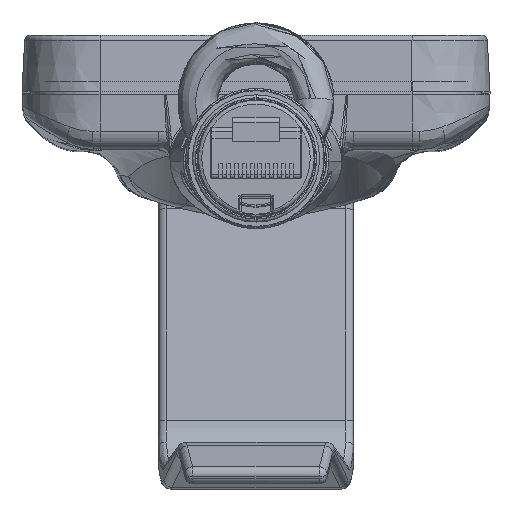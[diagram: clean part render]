
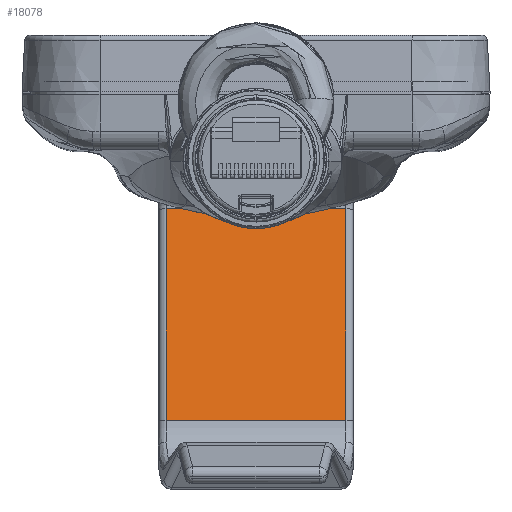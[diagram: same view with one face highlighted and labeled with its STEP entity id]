
A CAD part, top view. The second image highlights one B-rep face of the part: STEP entity #18078.
In plain terms, the highlighted planar face has unit normal (0, 0.174, 0.985).
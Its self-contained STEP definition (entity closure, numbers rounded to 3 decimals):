
#15982=DIRECTION('',(-1.,0.,0.));
#15983=VECTOR('',#15982,23.);
#15984=CARTESIAN_POINT('',(11.5,-14.816,-54.824));
#15985=LINE('',#15984,#15983);
#15990=DIRECTION('',(-1.,0.,0.));
#15991=VECTOR('',#15990,23.);
#15992=CARTESIAN_POINT('',(11.5,-41.919,-50.045));
#15993=LINE('',#15992,#15991);
#15994=DIRECTION('',(0.,0.985,-0.174));
#15995=VECTOR('',#15994,27.521);
#15996=CARTESIAN_POINT('',(11.5,-41.919,-50.045));
#15997=LINE('',#15996,#15995);
#16143=DIRECTION('',(0.,0.985,-0.174));
#16144=VECTOR('',#16143,27.521);
#16145=CARTESIAN_POINT('',(-11.5,-41.919,-50.045));
#16146=LINE('',#16145,#16144);
#16916=CARTESIAN_POINT('',(11.5,-14.816,-54.824));
#16918=VERTEX_POINT('',#16916);
#16924=CARTESIAN_POINT('',(11.5,-41.919,-50.045));
#16925=VERTEX_POINT('',#16924);
#17002=CARTESIAN_POINT('',(-11.5,-41.919,-50.045));
#17003=VERTEX_POINT('',#17002);
#17006=CARTESIAN_POINT('',(-11.5,-14.816,-54.824));
#17007=VERTEX_POINT('',#17006);
#18064=CARTESIAN_POINT('',(12.5,-41.919,-50.045));
#18065=DIRECTION('',(0.,0.174,0.985));
#18066=DIRECTION('',(0.,0.985,-0.174));
#18067=AXIS2_PLACEMENT_3D('',#18064,#18065,#18066);
#18068=PLANE('',#18067);
#18070=ORIENTED_EDGE('',*,*,#18069,.F.);
#18072=ORIENTED_EDGE('',*,*,#18071,.T.);
#18074=ORIENTED_EDGE('',*,*,#18073,.T.);
#18075=ORIENTED_EDGE('',*,*,#18056,.F.);
#18076=EDGE_LOOP('',(#18070,#18072,#18074,#18075));
#18077=FACE_OUTER_BOUND('',#18076,.F.);
#18056=EDGE_CURVE('',#16918,#17007,#15985,.T.);
#18069=EDGE_CURVE('',#16925,#16918,#15997,.T.);
#18071=EDGE_CURVE('',#16925,#17003,#15993,.T.);
#18073=EDGE_CURVE('',#17003,#17007,#16146,.T.);
#18078=ADVANCED_FACE('',(#18077),#18068,.T.);
